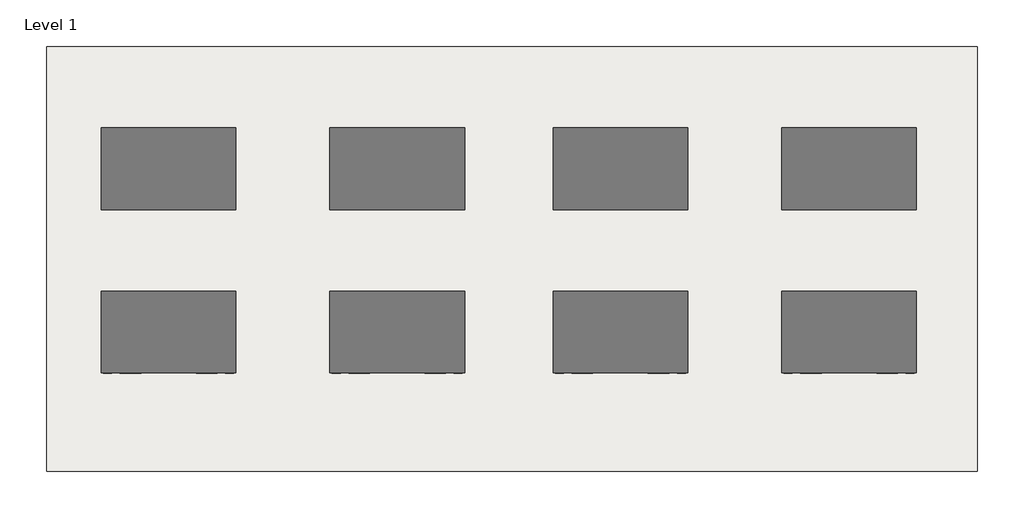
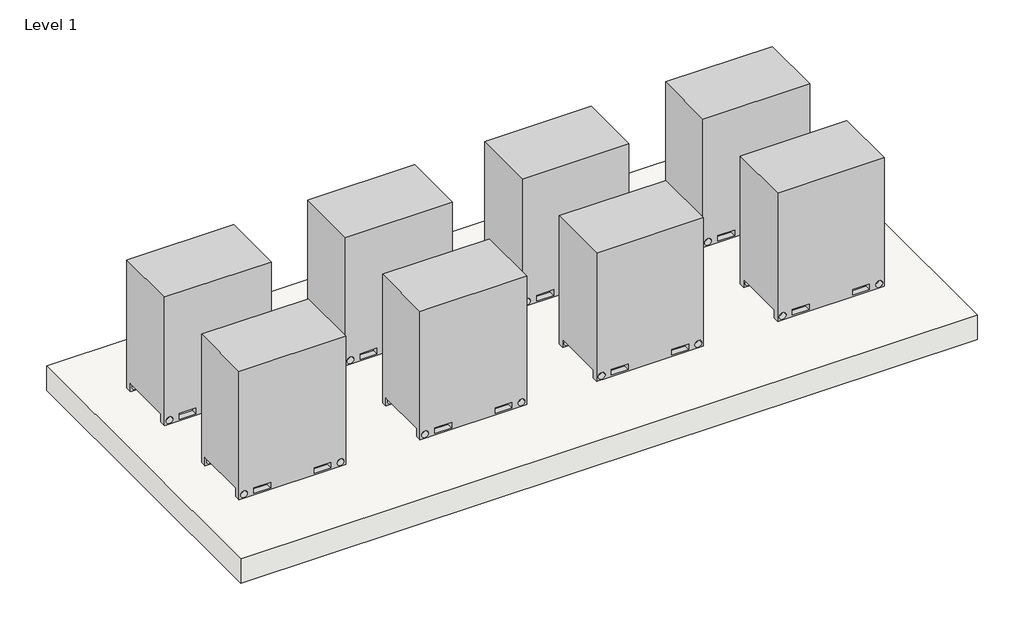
# One storey: 8 proxies, 1 slab.
"""IFC4 building model written with IfcOpenShell, lengths in millimetres."""

from ifc_helpers import new_model, si_unit, frame, origin, place, context, project, spatial, polyline, outline, extrude, transform, mapped, element, save
from components import lennox_vrf_single_unit_vra_2p_series_72000_btu_h_c5033c1e

model = new_model("IFC4")

# Units and contexts
model_context = context("Model", 3, world=origin())
ifc_project = project(units=[si_unit("LENGTHUNIT", "METRE", prefix="MILLI")], contexts=[model_context])

# Site, building, storey
site = spatial("IfcSite", under=ifc_project)
building = spatial("IfcBuilding", under=site)
storey = spatial("IfcBuildingStorey", under=building, Name="Level 1", Elevation=0.0)

# Proxies
placement = place(None, origin())
lennox_vrf_single_unit_vra_2p_series_72000_btu_h_shape = lennox_vrf_single_unit_vra_2p_series_72000_btu_h_c5033c1e(model_context)
element("IfcBuildingElementProxy", 1, Name="Lennox-VRF-Single_Unit-VRA-2P_Series : 72000 Btu/h", ObjectType="Lennox-VRF-Single_Unit-VRA-2P_Series : 72000 Btu/h", at=placement, inside=storey, context=model_context, shape_type="MappedRepresentation", body=[
    mapped(lennox_vrf_single_unit_vra_2p_series_72000_btu_h_shape, transform((2362.406622, 975.6463444, 0.0), x_axis=(1.0000000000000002, 0.0, 0.0), y_axis=(0.0, 1.0000000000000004, 0.0), z_axis=(0.0, 0.0, 1.0000000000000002))),
])
element("IfcBuildingElementProxy", 2, Name="Lennox-VRF-Single_Unit-VRA-2P_Series : 72000 Btu/h", ObjectType="Lennox-VRF-Single_Unit-VRA-2P_Series : 72000 Btu/h", at=placement, inside=storey, context=model_context, shape_type="MappedRepresentation", body=[
    mapped(lennox_vrf_single_unit_vra_2p_series_72000_btu_h_shape, transform((4496.006622, 975.6463444, 0.0), x_axis=(1.0000000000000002, 0.0, 0.0), y_axis=(0.0, 1.0000000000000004, 0.0), z_axis=(0.0, 0.0, 1.0000000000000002))),
])
element("IfcBuildingElementProxy", 3, Name="Lennox-VRF-Single_Unit-VRA-2P_Series : 72000 Btu/h", ObjectType="Lennox-VRF-Single_Unit-VRA-2P_Series : 72000 Btu/h", at=placement, inside=storey, context=model_context, shape_type="MappedRepresentation", body=[
    mapped(lennox_vrf_single_unit_vra_2p_series_72000_btu_h_shape, transform((6578.806622, 975.6463444, 0.0), x_axis=(1.0000000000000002, 0.0, 0.0), y_axis=(0.0, 1.0000000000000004, 0.0), z_axis=(0.0, 0.0, 1.0000000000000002))),
])
element("IfcBuildingElementProxy", 4, Name="Lennox-VRF-Single_Unit-VRA-2P_Series : 72000 Btu/h", ObjectType="Lennox-VRF-Single_Unit-VRA-2P_Series : 72000 Btu/h", at=placement, inside=storey, context=model_context, shape_type="MappedRepresentation", body=[
    mapped(lennox_vrf_single_unit_vra_2p_series_72000_btu_h_shape, transform((8712.406622, 975.6463444, 0.0), x_axis=(1.0000000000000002, 0.0, 0.0), y_axis=(0.0, 1.0000000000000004, 0.0), z_axis=(0.0, 0.0, 1.0000000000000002))),
])
element("IfcBuildingElementProxy", 5, Name="Lennox-VRF-Single_Unit-VRA-2P_Series : 72000 Btu/h", ObjectType="Lennox-VRF-Single_Unit-VRA-2P_Series : 72000 Btu/h", at=placement, inside=storey, context=model_context, shape_type="MappedRepresentation", body=[
    mapped(lennox_vrf_single_unit_vra_2p_series_72000_btu_h_shape, transform((2362.406622, -548.3536556, 0.0), x_axis=(1.0000000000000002, 0.0, 0.0), y_axis=(0.0, 1.0000000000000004, 0.0), z_axis=(0.0, 0.0, 1.0000000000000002))),
])
element("IfcBuildingElementProxy", 6, Name="Lennox-VRF-Single_Unit-VRA-2P_Series : 72000 Btu/h", ObjectType="Lennox-VRF-Single_Unit-VRA-2P_Series : 72000 Btu/h", at=placement, inside=storey, context=model_context, shape_type="MappedRepresentation", body=[
    mapped(lennox_vrf_single_unit_vra_2p_series_72000_btu_h_shape, transform((4496.006622, -548.3536556, 0.0), x_axis=(1.0000000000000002, 0.0, 0.0), y_axis=(0.0, 1.0000000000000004, 0.0), z_axis=(0.0, 0.0, 1.0000000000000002))),
])
element("IfcBuildingElementProxy", 7, Name="Lennox-VRF-Single_Unit-VRA-2P_Series : 72000 Btu/h", ObjectType="Lennox-VRF-Single_Unit-VRA-2P_Series : 72000 Btu/h", at=placement, inside=storey, context=model_context, shape_type="MappedRepresentation", body=[
    mapped(lennox_vrf_single_unit_vra_2p_series_72000_btu_h_shape, transform((6578.806622, -548.3536556, 0.0), x_axis=(1.0000000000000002, 0.0, 0.0), y_axis=(0.0, 1.0000000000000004, 0.0), z_axis=(0.0, 0.0, 1.0000000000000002))),
])
element("IfcBuildingElementProxy", 8, Name="Lennox-VRF-Single_Unit-VRA-2P_Series : 72000 Btu/h", ObjectType="Lennox-VRF-Single_Unit-VRA-2P_Series : 72000 Btu/h", at=placement, inside=storey, context=model_context, shape_type="MappedRepresentation", body=[
    mapped(lennox_vrf_single_unit_vra_2p_series_72000_btu_h_shape, transform((8712.406622, -548.3536556, 0.0), x_axis=(1.0000000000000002, 0.0, 0.0), y_axis=(0.0, 1.0000000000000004, 0.0), z_axis=(0.0, 0.0, 1.0000000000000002))),
])

# Slab
element("IfcSlab", 9, ObjectType="Generic - 12\"", at=placement, inside=storey, context=model_context, shape_type="SweptSolid", body=[
    extrude(outline(polyline([(9910.3973575, 2115.5766815), (9910.3973575, -1846.8233185), (1223.5973575, -1846.8233185), (1223.5973575, 2115.5766815), (9910.3973575, 2115.5766815)])), frame((0.0, 0.0, -304.8), z_axis=(0.0, 0.0, 1.0), x_axis=(1.0, 0.0, 0.0)), (0.0, 0.0, 1.0), 304.8),
])

save(model, "model.ifc")
